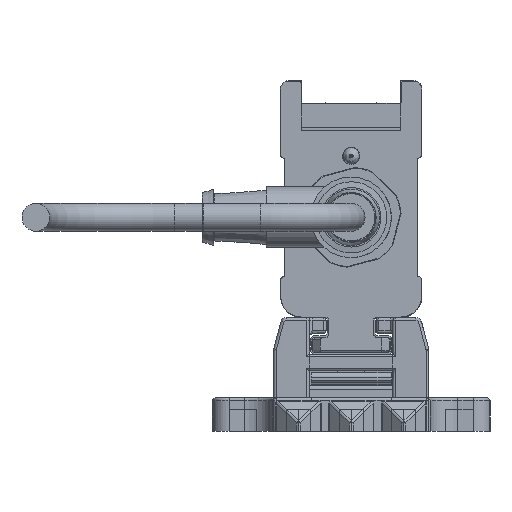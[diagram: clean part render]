
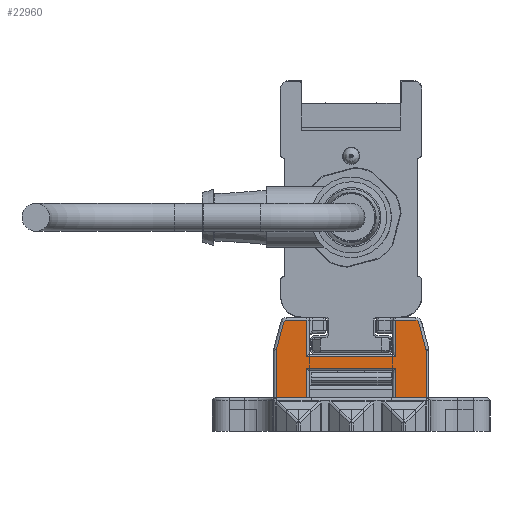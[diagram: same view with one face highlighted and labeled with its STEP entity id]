
A CAD part, left-side view. The second image highlights one B-rep face of the part: STEP entity #22960.
In plain terms, the highlighted planar face has unit normal (-1, 0, 0).
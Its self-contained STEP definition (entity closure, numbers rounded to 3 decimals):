
#22960=ADVANCED_FACE('', (#22970), #22980, .T.);
#93730=AXIS2_PLACEMENT_3D('Ax2Pl3d', #93740, #93750, #93760);
#93970=AXIS2_PLACEMENT_3D('Ax2Pl3d', #93980, #93990, #94000);
#98850=AXIS2_PLACEMENT_3D('Ax2Pl3d', #98860, #98870, #98880);
#103930=AXIS2_PLACEMENT_3D('Ax2Pl3d', #103940, #103950, #103960);
#113610=AXIS2_PLACEMENT_3D('Ax2Pl3d', #113620, #113630, #113640);
#322720=CARTESIAN_POINT('', (-747.669,-1046.345,
331.37));
#93740=CARTESIAN_POINT('HicPkt', (-747.669,-1045.379,
331.111));
#322730=CARTESIAN_POINT('', (-747.669,-1046.379,
331.111));
#322740=CARTESIAN_POINT('', (-747.669,-1045.037,336.255)
);
#322760=CARTESIAN_POINT('', (-747.669,-1045.037,336.255)
);
#322790=CARTESIAN_POINT('', (-747.669,-1044.554,
336.625));
#93980=CARTESIAN_POINT('HicPkt', (-747.669,-1044.554,
336.125));
#323010=CARTESIAN_POINT('', (-747.669,-1046.379,
322.625));
#323020=CARTESIAN_POINT('', (-747.669,-1040.881,
322.625));
#323030=CARTESIAN_POINT('', (-747.669,-1040.881,
322.625));
#323110=CARTESIAN_POINT('', (-747.669,-1024.881,
322.625));
#323120=CARTESIAN_POINT('', (-747.669,-1019.383,
322.625));
#323130=CARTESIAN_POINT('', (-747.669,-1019.383,
322.625));
#98860=CARTESIAN_POINT('HicPkt', (-747.669,-1021.209,
336.125));
#325600=CARTESIAN_POINT('', (-747.669,-1020.726,
336.255));
#325610=CARTESIAN_POINT('', (-747.669,-1021.209,
336.625));
#325620=CARTESIAN_POINT('', (-747.669,-1040.881,
330.025));
#325630=CARTESIAN_POINT('', (-747.669,-1024.881,330.025)
);
#325640=CARTESIAN_POINT('', (-747.669,-1040.881,
330.025));
#325800=CARTESIAN_POINT('', (-747.669,-1040.881,
328.005));
#325810=CARTESIAN_POINT('', (-747.669,-1024.881,
328.005));
#325820=CARTESIAN_POINT('', (-747.669,-1024.881,
328.005));
#325830=CARTESIAN_POINT('', (-747.669,-1040.881,
328.005));
#325850=CARTESIAN_POINT('', (-747.669,-1024.881,
322.625));
#325860=CARTESIAN_POINT('', (-747.669,-1024.881,330.025)
);
#325870=CARTESIAN_POINT('', (-747.669,-1024.881,
336.625));
#326720=CARTESIAN_POINT('', (-747.669,-1024.881,
336.625));
#326730=CARTESIAN_POINT('', (-747.669,-1020.726,
336.255));
#326740=CARTESIAN_POINT('', (-747.669,-1019.417,
331.37));
#326930=CARTESIAN_POINT('', (-747.669,-1019.383,
331.111));
#326940=CARTESIAN_POINT('', (-747.669,-1019.383,
331.111));
#103940=CARTESIAN_POINT('HicPkt', (-747.669,-1020.383,
331.111));
#327750=CARTESIAN_POINT('', (-747.669,-1046.379,
331.111));
#113620=CARTESIAN_POINT('HicPkt', (-747.669,-1044.554,
336.625));
#329550=CARTESIAN_POINT('', (-747.669,-1040.881,
336.625));
#329560=CARTESIAN_POINT('', (-747.669,-1040.881,
336.625));
#329570=CARTESIAN_POINT('', (-747.669,-1040.881,
336.625));
#369010=CIRCLE('Circle', #93730, 1.);
#369050=CIRCLE('Circle', #93970, 0.5);
#369630=CIRCLE('Circle', #98850, 0.5);
#370160=CIRCLE('Circle', #103930, 1.);
#93750=DIRECTION('Axis', (-1.,0.,0.)
);
#93760=DIRECTION('RefDirection', (0.,
0.,-1.));
#517530=DIRECTION('', (0.,0.259,
0.966));
#93990=DIRECTION('Axis', (-1.,0.,0.)
);
#94000=DIRECTION('RefDirection', (0.,
0.,-1.));
#517640=DIRECTION('', (0.,1.,0.));
#517680=DIRECTION('', (0.,1.,0.));
#98870=DIRECTION('Axis', (1.,0.,
0.));
#98880=DIRECTION('RefDirection', (0.,
0.,-1.));
#518870=DIRECTION('', (0.,-1.,0.));
#518970=DIRECTION('', (0.,1.,0.));
#518980=DIRECTION('', (0.,0.,1.));
#519000=DIRECTION('', (0.,0.,-1.));
#519010=DIRECTION('', (0.,0.,-1.));
#519440=DIRECTION('', (0.,-1.,0.));
#519450=DIRECTION('', (0.,-0.259,0.966));
#519540=DIRECTION('', (0.,0.,1.));
#103950=DIRECTION('Axis', (1.,0.,
0.));
#103960=DIRECTION('RefDirection', (0.,
0.,-1.));
#519910=DIRECTION('', (0.,0.,1.));
#113630=DIRECTION('Axis', (-1.,0.,
0.));
#113640=DIRECTION('RefDirection', (0.,
0.,-1.));
#520750=DIRECTION('', (0.,1.,0.));
#520760=DIRECTION('', (0.,0.,1.));
#562200=EDGE_CURVE('', #562210, #562190, #369010, .T.);
#562260=EDGE_CURVE('', #562190, #562240, #562270, .T.);
#562330=EDGE_CURVE('', #562240, #562320, #369050, .T.);
#562780=EDGE_CURVE('', #562770, #562790, #562800, .T.);
#562940=EDGE_CURVE('', #562930, #562950, #562960, .T.);
#567300=EDGE_CURVE('', #567310, #567320, #369630, .T.);
#567350=EDGE_CURVE('', #567360, #567370, #567380, .T.);
#567720=EDGE_CURVE('', #567700, #567730, #567740, .T.);
#567770=EDGE_CURVE('', #562790, #567700, #567780, .T.);
#567810=EDGE_CURVE('', #567730, #562930, #567820, .T.);
#567830=EDGE_CURVE('', #567840, #567360, #567850, .T.);
#569670=EDGE_CURVE('', #567320, #567840, #569680, .T.);
#569740=EDGE_CURVE('', #569750, #567310, #569760, .T.);
#570180=EDGE_CURVE('', #562950, #570190, #570200, .T.);
#570220=EDGE_CURVE('', #570190, #569750, #370160, .T.);
#571930=EDGE_CURVE('', #562770, #562210, #571940, .T.);
#575740=EDGE_CURVE('', #562320, #575750, #575760, .T.);
#575770=EDGE_CURVE('', #567370, #575750, #575780, .T.);
#683540=EDGE_LOOP('Edge_loop', (#683550,#683560,#683570,#683580,#683590,
#683600,#683610,#683620,#683630,#683640,#683650,#683660,#683670,#683680,
#683690,#683700,#683710,#683720));
#22970=FACE_OUTER_BOUND('Face_outer_bound', #683540, .T.);
#562270=LINE('Line', #322760, #765320);
#562800=LINE('Line', #323020, #765430);
#562960=LINE('Line', #323120, #765470);
#567380=LINE('Line', #325620, #766660);
#567740=LINE('Line', #325810, #766760);
#567780=LINE('Line', #325830, #766770);
#567820=LINE('Line', #325850, #766790);
#567850=LINE('Line', #325860, #766800);
#569680=LINE('Line', #326720, #767230);
#569760=LINE('Line', #326730, #767240);
#570200=LINE('Line', #326930, #767330);
#571940=LINE('Line', #327750, #767700);
#575760=LINE('Line', #329550, #768540);
#575780=LINE('Line', #329570, #768550);
#683550=ORIENTED_EDGE('', *, *, #575740, .T.);
#683560=ORIENTED_EDGE('', *, *, #575770, .F.);
#683570=ORIENTED_EDGE('', *, *, #567350, .F.);
#683580=ORIENTED_EDGE('', *, *, #567830, .F.);
#683590=ORIENTED_EDGE('', *, *, #569670, .F.);
#683600=ORIENTED_EDGE('', *, *, #567300, .F.);
#683610=ORIENTED_EDGE('', *, *, #569740, .F.);
#683620=ORIENTED_EDGE('', *, *, #570220, .F.);
#683630=ORIENTED_EDGE('', *, *, #570180, .F.);
#683640=ORIENTED_EDGE('', *, *, #562940, .F.);
#683650=ORIENTED_EDGE('', *, *, #567810, .F.);
#683660=ORIENTED_EDGE('', *, *, #567720, .F.);
#683670=ORIENTED_EDGE('', *, *, #567770, .F.);
#683680=ORIENTED_EDGE('', *, *, #562780, .F.);
#683690=ORIENTED_EDGE('', *, *, #571930, .T.);
#683700=ORIENTED_EDGE('', *, *, #562200, .T.);
#683710=ORIENTED_EDGE('', *, *, #562260, .T.);
#683720=ORIENTED_EDGE('', *, *, #562330, .T.);
#22980=PLANE('Plane', #113610);
#765320=VECTOR('', #517530, 5.057);
#765430=VECTOR('', #517640, 5.498);
#765470=VECTOR('', #517680, 5.498);
#766660=VECTOR('', #518870, 16.);
#766760=VECTOR('', #518970, 16.);
#766770=VECTOR('', #518980, 5.38);
#766790=VECTOR('', #519000, 5.38);
#766800=VECTOR('', #519010, 6.6);
#767230=VECTOR('', #519440, 3.672);
#767240=VECTOR('', #519450, 5.057);
#767330=VECTOR('', #519540, 8.486);
#767700=VECTOR('', #519910, 8.486);
#768540=VECTOR('', #520750, 3.672);
#768550=VECTOR('', #520760, 6.6);
#562190=VERTEX_POINT('', #322720);
#562210=VERTEX_POINT('', #322730);
#562240=VERTEX_POINT('', #322740);
#562320=VERTEX_POINT('', #322790);
#562770=VERTEX_POINT('', #323010);
#562790=VERTEX_POINT('', #323030);
#562930=VERTEX_POINT('', #323110);
#562950=VERTEX_POINT('', #323130);
#567310=VERTEX_POINT('', #325600);
#567320=VERTEX_POINT('', #325610);
#567360=VERTEX_POINT('', #325630);
#567370=VERTEX_POINT('', #325640);
#567700=VERTEX_POINT('', #325800);
#567730=VERTEX_POINT('', #325820);
#567840=VERTEX_POINT('', #325870);
#569750=VERTEX_POINT('', #326740);
#570190=VERTEX_POINT('', #326940);
#575750=VERTEX_POINT('', #329560);
